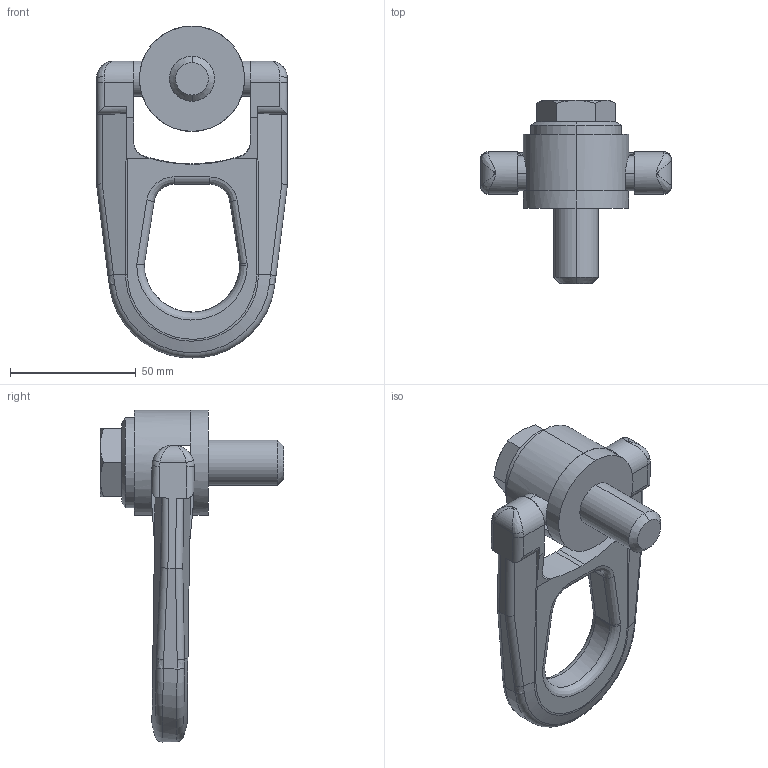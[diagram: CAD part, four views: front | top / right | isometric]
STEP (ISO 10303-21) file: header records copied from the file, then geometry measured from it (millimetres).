
FILE_DESCRIPTION (( 'STEP AP203' ), '1' );
FILE_NAME ('63200.W0018.step', '2013-12-13T15:22:52', ( 'User' ), ( '' ), 'SwSTEP 2.0', 'SolidWorks 2009', '' );
FILE_SCHEMA (( 'CONFIG_CONTROL_DESIGN' ));
Length unit declared in the file: millimetre
Products named in the file (3): Part1_63200.W0018; Part3; 63200.W0018
Assembly tree (2 placements, depth 2):
  63200.W0018
    Part1_63200.W0018
    Part3
Bounding box: 76 x 73 x 132.2 mm (x, y, z)
Volume: 113595.3 mm3; surface area: 27699.5 mm2
Topology: 2 solids, 2 shells, 138 faces, 344 edges, 211 vertices
Faces by surface type: plane 47, cylinder 45, bspline 26, cone 13, torus 7
Entity records: 6798 total; most frequent: CARTESIAN_POINT 3462, ORIENTED_EDGE 688, DIRECTION 578, EDGE_CURVE 344, AXIS2_PLACEMENT_3D 218, VERTEX_POINT 211, EDGE_LOOP 143, VECTOR 142
